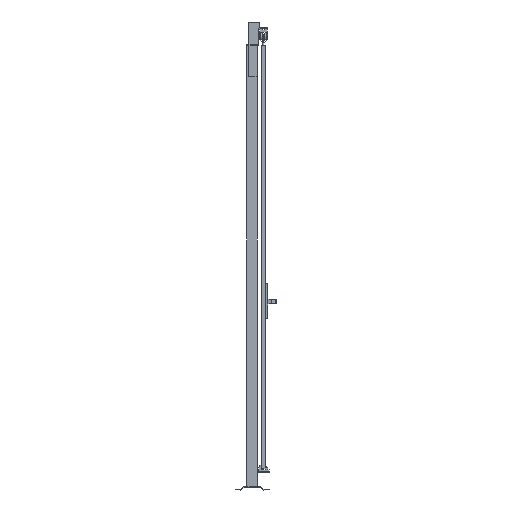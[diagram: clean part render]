
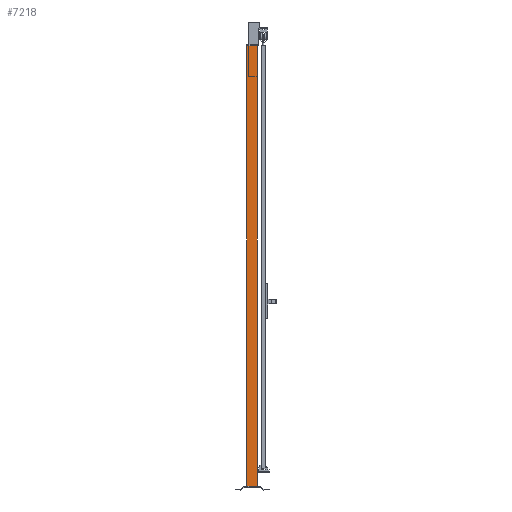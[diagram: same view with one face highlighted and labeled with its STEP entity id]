
A CAD part, left-side view. The second image highlights one B-rep face of the part: STEP entity #7218.
In plain terms, the highlighted planar face has unit normal (-1, 0, 0).
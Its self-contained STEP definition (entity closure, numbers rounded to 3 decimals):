
#580=FACE_OUTER_BOUND('',#1090,.T.);
#1090=EDGE_LOOP('',(#4241,#4242,#4243,#4244));
#1639=VERTEX_POINT('',#14242);
#1640=VERTEX_POINT('',#14244);
#1643=VERTEX_POINT('',#14251);
#1644=VERTEX_POINT('',#14253);
#2707=EDGE_CURVE('',#1639,#1640,#8108,.T.);
#2711=EDGE_CURVE('',#1643,#1644,#8112,.T.);
#2713=EDGE_CURVE('',#1640,#1643,#8114,.T.);
#2715=EDGE_CURVE('',#1639,#1644,#8116,.T.);
#4241=ORIENTED_EDGE('',*,*,#2715,.T.);
#4242=ORIENTED_EDGE('',*,*,#2711,.F.);
#4243=ORIENTED_EDGE('',*,*,#2713,.F.);
#4244=ORIENTED_EDGE('',*,*,#2707,.F.);
#6760=PLANE('',#10545);
#7218=ADVANCED_FACE('',(#580),#6760,.F.);
#8108=LINE('',#14245,#9368);
#8112=LINE('',#14254,#9372);
#8114=LINE('',#14257,#9374);
#8116=LINE('',#14260,#9376);
#9368=VECTOR('',#11433,1.);
#9372=VECTOR('',#11439,1.);
#9374=VECTOR('',#11443,1.);
#9376=VECTOR('',#11447,1.);
#10545=AXIS2_PLACEMENT_3D('',#14259,#11445,#11446);
#11433=DIRECTION('',(0.,-1.,0.));
#11439=DIRECTION('',(0.,1.,0.));
#11443=DIRECTION('',(0.,0.,-1.));
#11445=DIRECTION('center_axis',(1.,0.,0.));
#11446=DIRECTION('ref_axis',(0.,0.,-1.));
#11447=DIRECTION('',(0.,0.,-1.));
#14242=CARTESIAN_POINT('',(-30.,30.,2520.));
#14244=CARTESIAN_POINT('',(-30.,-30.,2520.));
#14245=CARTESIAN_POINT('',(-30.,0.,2520.));
#14251=CARTESIAN_POINT('',(-30.,-30.,20.));
#14253=CARTESIAN_POINT('',(-30.,30.,20.));
#14254=CARTESIAN_POINT('',(-30.,0.,20.));
#14257=CARTESIAN_POINT('',(-30.,-30.,1270.));
#14259=CARTESIAN_POINT('Origin',(-30.,0.,
1270.));
#14260=CARTESIAN_POINT('',(-30.,30.,1270.));
